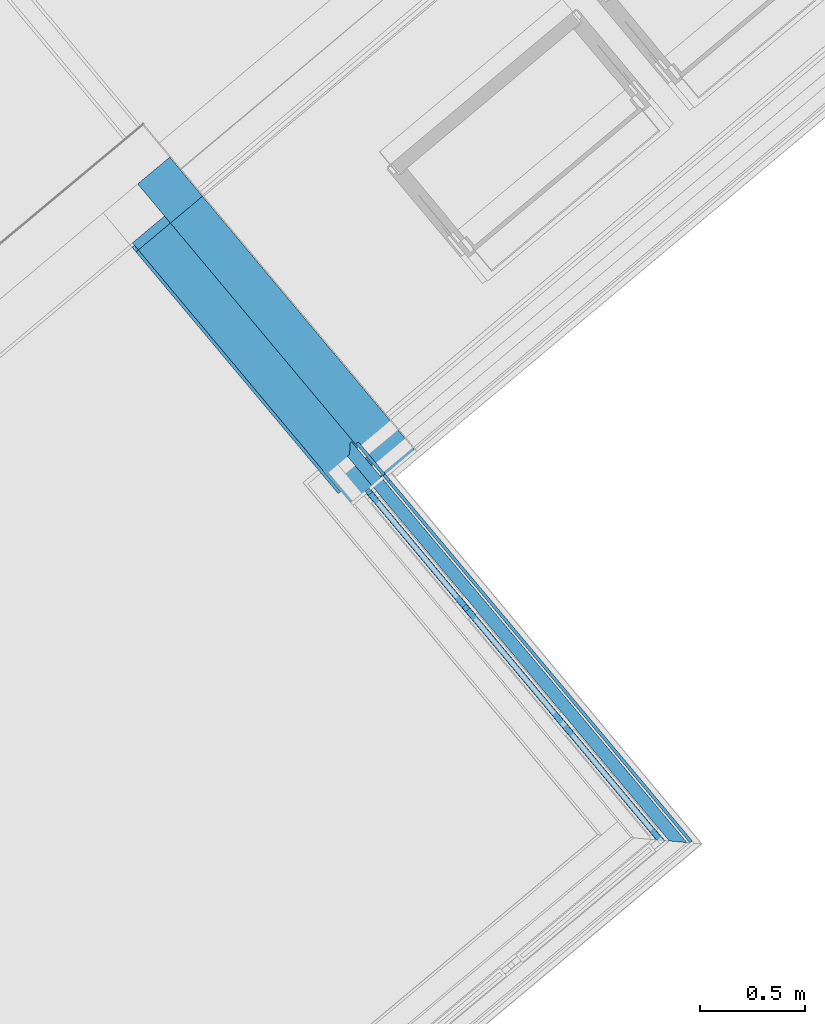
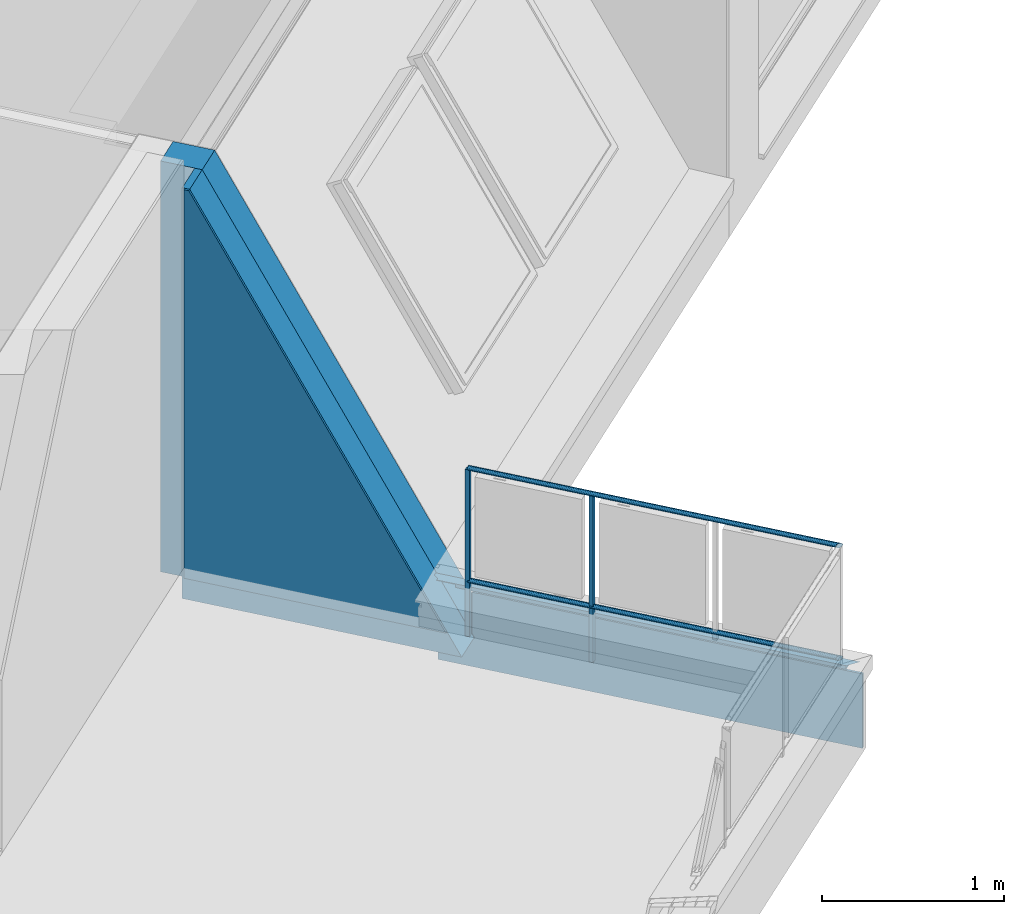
# One storey, part 21 of 58: 9 building element parts, 3 elements without a shape of their own.
"""IFC4 building model written with IfcOpenShell, lengths in metres."""

import ifcopenshell
import ifcopenshell.guid

model = None  # the IFC model being written
_history = None  # IfcOwnerHistory: only IFC2X3 demands one
_inside = {}  # id of a spatial element -> (the spatial element, [elements in it])
_under = {}  # id of a project, library or spatial element -> (it, [spatial elements below it])
_declared = {}  # id of a project -> (the project, [libraries it declares])
_typed = {}  # id of a type object -> (the type object, [elements of that type])
_made_of = {}  # id of a material, layer set ... -> (it, [elements and type objects made of it])


def new_model(schema):
    """Start an empty IFC model of exactly this schema.

    Asked for "IFC4X3", IfcOpenShell would pick the latest addendum, in which some entities
    have other attributes; the version numbers below select the first issue.
    IFC2X3 requires an IfcOwnerHistory on every rooted entity: one is made here for all.
    """
    global model, _history
    if schema == "IFC4X3":
        model = ifcopenshell.file(schema_version=(4, 3, 0, 0))
    else:
        model = ifcopenshell.file(schema=schema)
    _inside.clear()
    _under.clear()
    _declared.clear()
    _typed.clear()
    _made_of.clear()
    _history = None
    if model.schema == "IFC2X3":
        org = make("IfcOrganization", Name="unknown")
        user = make(
            "IfcPersonAndOrganization",
            ThePerson=make("IfcPerson", FamilyName="unknown"),
            TheOrganization=org,
        )
        app = make(
            "IfcApplication",
            ApplicationDeveloper=org,
            Version="unknown",
            ApplicationFullName="unknown",
            ApplicationIdentifier="unknown",
        )
        _history = make(
            "IfcOwnerHistory",
            OwningUser=user,
            OwningApplication=app,
            ChangeAction="ADDED",
            CreationDate=0,
        )
    return model


def make(cls, **values):
    """One entity of the class cls with the attributes given. An attribute that is None is left unset."""
    return model.create_entity(
        cls, **{name: value for name, value in values.items() if value is not None}
    )


def entity(cls, *values):
    """Any entity or typed value of the class cls, its attributes in the order of the schema. None: left unset."""
    e = model.create_entity(cls)
    for i, value in enumerate(values):
        if value is not None:
            e[i] = value
    return e


def rooted(cls, **values):
    """An entity with a GlobalId (a new one), such as an element, a storey or a relation."""
    return make(cls, GlobalId=ifcopenshell.guid.new(), OwnerHistory=_history, **values)


def si_unit(unit_type, name, prefix=None):
    """IfcSIUnit, for example si_unit("LENGTHUNIT", "METRE", prefix="MILLI")."""
    return make("IfcSIUnit", UnitType=unit_type, Prefix=prefix, Name=name)


def converted_unit(unit_type, name, factor, base, dimensions=None, offset=None):
    """IfcConversionBasedUnit, such as the inch: factor (a typed value) times the base unit."""
    return make(
        "IfcConversionBasedUnit"
        if offset is None
        else "IfcConversionBasedUnitWithOffset",
        ConversionOffset=offset,
        Dimensions=None
        if dimensions is None
        else entity("IfcDimensionalExponents", *dimensions),
        UnitType=unit_type,
        Name=name,
        ConversionFactor=make(
            "IfcMeasureWithUnit", ValueComponent=factor, UnitComponent=base
        ),
    )


def derived_unit(unit_type, elements):
    """IfcDerivedUnit: a product of units, each with its exponent."""
    return make(
        "IfcDerivedUnit",
        Elements=[
            make("IfcDerivedUnitElement", Unit=unit, Exponent=power)
            for unit, power in elements
        ],
        UnitType=unit_type,
    )


def assignment(units):
    """IfcUnitAssignment: the units of a project."""
    return None if units is None else make("IfcUnitAssignment", Units=units)


def point(xyz):
    """IfcCartesianPoint."""
    return None if xyz is None else make("IfcCartesianPoint", Coordinates=xyz)


def direction(xyz):
    """IfcDirection."""
    return None if xyz is None else make("IfcDirection", DirectionRatios=xyz)


def frame(location, z_axis=None, x_axis=None):
    """IfcAxis2Placement3D, a coordinate frame: its origin and axes. An axis left out is left unset."""
    return make(
        "IfcAxis2Placement3D",
        Location=point(location),
        Axis=direction(z_axis),
        RefDirection=direction(x_axis),
    )


def origin_with_axes():
    """The frame at (0, 0, 0) with the z axis (0, 0, 1) and the x axis (1, 0, 0) written out."""
    return frame((0.0, 0.0, 0.0), z_axis=(0.0, 0.0, 1.0), x_axis=(1.0, 0.0, 0.0))


def place(relative_to, where):
    """IfcLocalPlacement: puts the frame where relative to a parent placement (None: the world)."""
    return make(
        "IfcLocalPlacement", PlacementRelTo=relative_to, RelativePlacement=where
    )


def context(
    kind, dimensions, precision=None, world=None, true_north=None, identifier=None
):
    """IfcGeometricRepresentationContext, for example the 3D "Model" context."""
    return make(
        "IfcGeometricRepresentationContext",
        ContextIdentifier=identifier,
        ContextType=kind,
        CoordinateSpaceDimension=dimensions,
        Precision=precision,
        WorldCoordinateSystem=world,
        TrueNorth=true_north,
    )


def subcontext(parent, identifier, kind, view, scale=None):
    """IfcGeometricRepresentationSubContext, for example "Body" below "Model"."""
    return make(
        "IfcGeometricRepresentationSubContext",
        ContextIdentifier=identifier,
        ContextType=kind,
        ParentContext=parent,
        TargetScale=scale,
        TargetView=view,
    )


def project(units=None, contexts=None):
    """IfcProject with its units and contexts."""
    return rooted(
        "IfcProject",
        Name="project",
        RepresentationContexts=contexts,
        UnitsInContext=assignment(units),
    )


def spatial(cls, under=None, at=None, **own):
    """A site, building, storey or space (cls), placed at a placement, below another one or the project."""
    s = rooted(cls, ObjectPlacement=at, **own)
    if under is not None:
        _under.setdefault(under.id(), (under, []))[1].append(s)
    return s


def point_list(points):
    """IfcCartesianPointList2D or 3D."""
    cls = (
        "IfcCartesianPointList2D" if len(points[0]) == 2 else "IfcCartesianPointList3D"
    )
    return make(cls, CoordList=points)


def polygons(points, faces, closed=None, point_numbers=None):
    """IfcPolygonalFaceSet: a face is its outer loop, then its inner loops; points numbered from 1."""
    made = []
    for loops in faces:
        if len(loops) == 1:
            made.append(make("IfcIndexedPolygonalFace", CoordIndex=loops[0]))
        else:
            made.append(
                make(
                    "IfcIndexedPolygonalFaceWithVoids",
                    CoordIndex=loops[0],
                    InnerCoordIndices=loops[1:],
                )
            )
    return make(
        "IfcPolygonalFaceSet",
        Coordinates=point_list(points),
        Closed=closed,
        Faces=made,
        PnIndex=point_numbers,
    )


def shape(context_of_items, identifier, shape_type, items):
    """IfcShapeRepresentation: the items that make up one representation, for example the "Body"."""
    return make(
        "IfcShapeRepresentation",
        ContextOfItems=context_of_items,
        RepresentationIdentifier=identifier,
        RepresentationType=shape_type,
        Items=items,
    )


def material(Name=None, Category=None):
    """IfcMaterial."""
    return make("IfcMaterial", Name=Name, Category=Category)


def made_of(thing, what):
    """Note that an element or type object is made of a material, layer set ...; save() writes the relation."""
    if what is not None:
        _made_of.setdefault(what.id(), (what, []))[1].append(thing)
    return thing


def type_object(cls, material=None, **own):
    """A type object (cls), such as IfcWallType, which elements share."""
    return made_of(rooted(cls, **own), material)


def element(
    cls,
    number,
    at=None,
    inside=None,
    cuts=None,
    type_object=None,
    material=None,
    context=None,
    identifier="Body",
    shape_type=None,
    held_by="IfcProductDefinitionShape",
    body=None,
    shapes=None,
    **own,
):
    """One element of the class cls, such as IfcWall. Its Tag is "e" and its number.

    at: its placement. inside: the storey or other place that contains it. cuts: it is an
    opening in that element (IfcRelVoidsElement). A single representation is given by context,
    identifier, shape_type and body (its items); several are given by shapes. held_by: the class
    of the entity that holds the representations. save() writes the other relations.
    """
    e = rooted(cls, Tag="e%d" % number, ObjectPlacement=at, **own)
    if body is not None:
        shapes = [shape(context, identifier, shape_type, body)]
    if shapes is not None:
        e.Representation = make(held_by, Representations=shapes)
    if inside is not None:
        _inside.setdefault(inside.id(), (inside, []))[1].append(e)
    if cuts is not None:
        rooted(
            "IfcRelVoidsElement", RelatingBuildingElement=cuts, RelatedOpeningElement=e
        )
    if type_object is not None:
        _typed.setdefault(type_object.id(), (type_object, []))[1].append(e)
    return made_of(e, material)


def aggregate(whole, parts):
    """IfcRelAggregates: a whole, such as a stair, and the parts it consists of."""
    return rooted("IfcRelAggregates", RelatingObject=whole, RelatedObjects=parts)


def save(model, path):
    """Write the relations noted so far, then the file.

    IfcRelAggregates (storeys below a building ...), IfcRelContainedInSpatialStructure (elements
    in a storey), IfcRelDefinesByType, IfcRelAssociatesMaterial and IfcRelDeclares: one each for
    every whole, place, type object, material and project.
    """
    for whole, parts in _under.values():
        aggregate(whole, parts)
    for where, things in _inside.values():
        rooted(
            "IfcRelContainedInSpatialStructure",
            RelatedElements=things,
            RelatingStructure=where,
        )
    for kind, things in _typed.values():
        rooted("IfcRelDefinesByType", RelatedObjects=things, RelatingType=kind)
    for what, things in _made_of.values():
        rooted("IfcRelAssociatesMaterial", RelatedObjects=things, RelatingMaterial=what)
    for by, libraries in _declared.values():
        rooted("IfcRelDeclares", RelatingContext=by, RelatedDefinitions=libraries)
    model.write(path)


model = new_model("IFC4")

# Units and contexts
model_context = context("Model", 3, precision=1e-05, world=origin_with_axes(), true_north=direction((0.0, 1.0)))
body_context = subcontext(model_context, "Body", "Model", "MODEL_VIEW")
ifc_project = project(units=[si_unit("LENGTHUNIT", "METRE"), si_unit("AREAUNIT", "SQUARE_METRE"), si_unit("VOLUMEUNIT", "CUBIC_METRE"), converted_unit("PLANEANGLEUNIT", "DEGREE", entity("IfcPlaneAngleMeasure", 0.0174532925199), si_unit("PLANEANGLEUNIT", "RADIAN"), dimensions=[0, 0, 0, 0, 0, 0, 0]), converted_unit("TIMEUNIT", "Year", entity("IfcTimeMeasure", 31556926.0), si_unit("TIMEUNIT", "SECOND"), dimensions=[0, 0, 1, 0, 0, 0, 0]), si_unit("MASSUNIT", "GRAM", prefix="KILO"), si_unit("THERMODYNAMICTEMPERATUREUNIT", "DEGREE_CELSIUS"), si_unit("LUMINOUSINTENSITYUNIT", "LUMEN"), si_unit("ENERGYUNIT", "JOULE", prefix="MEGA"), derived_unit("THERMALCONDUCTANCEUNIT", [(si_unit("POWERUNIT", "WATT"), 1), (si_unit("LENGTHUNIT", "METRE"), -1), (si_unit("THERMODYNAMICTEMPERATUREUNIT", "KELVIN"), -1)]), derived_unit("SPECIFICHEATCAPACITYUNIT", [(si_unit("ENERGYUNIT", "JOULE"), 1), (si_unit("MASSUNIT", "GRAM", prefix="KILO"), -1), (si_unit("THERMODYNAMICTEMPERATUREUNIT", "KELVIN"), -1)]), derived_unit("MASSDENSITYUNIT", [(si_unit("MASSUNIT", "GRAM", prefix="KILO"), 1), (si_unit("VOLUMEUNIT", "CUBIC_METRE"), -1)])], contexts=[model_context])

# Site, building, storey
site_placement = place(None, frame((-0.00153261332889, -0.00661245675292, 0.0), z_axis=(0.0, 0.0, 1.0), x_axis=(1.0, 0.0, 0.0)))
site = spatial("IfcSite", under=ifc_project, at=site_placement, Name="Site", CompositionType="ELEMENT")
building_placement = place(site_placement, origin_with_axes())
building = spatial("IfcBuilding", under=site, at=building_placement, Name="Building", CompositionType="ELEMENT")
storey_placement = place(building_placement, frame((0.0, 0.0, 5.7), z_axis=(0.0, 0.0, 1.0), x_axis=(1.0, 0.0, 0.0)))
storey = spatial("IfcBuildingStorey", under=building, at=storey_placement, Name="DG1", CompositionType="ELEMENT", Elevation=5.7)

# Wall, building element parts
wall_type_1 = type_object("IfcWallType", Name="AW EG 420", PredefinedType="NOTDEFINED")
wall_1_placement = place(storey_placement, frame((4.49965389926, 14.9497476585, 0.0), z_axis=(0.0, 0.0, 1.0), x_axis=(0.641751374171, -0.766912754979, 0.0)))
wall_1 = element("IfcWall", 1, at=wall_1_placement, inside=storey, type_object=wall_type_1, Name="Wand-002", PredefinedType="NOTDEFINED")
ifc_material_1 = material(Name="Stahlbeton Wand")
building_element_part_1_placement = place(wall_1_placement, origin_with_axes())
building_element_part_1 = element("IfcBuildingElementPart", 2, at=building_element_part_1_placement, material=ifc_material_1, Name="Stahlbeton Wand", PredefinedType="NOTDEFINED", context=body_context, shape_type="Tessellation", body=[
    polygons([(-0.214988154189, 0.215, 0.0), (-0.214988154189, 0.215, 2.76), (-0.214977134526, 0.415, 2.76), (-0.214977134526, 0.415, 2.57275084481), (-0.214988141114, 0.215237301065, 2.57276350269), (-0.214988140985, 0.215239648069, 2.36264000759), (-0.214977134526, 0.415, 2.36267415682), (-0.214977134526, 0.415, 0.0), (1.62250990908, 0.215, 0.0), (0.0290231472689, 0.215, 2.76), (0.0290539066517, 0.415, 2.76), (1.6225414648, 0.415, 0.0), (1.38005355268, 0.415, 0.0), (-0.138988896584, 0.415, 2.63105866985), (-0.13901863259, 0.215225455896, 2.63105695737), (1.38002279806, 0.215031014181, 0.0), (1.14908269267, 0.215065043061, 0.0), (1.14911344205, 0.415, 0.0)], [[[1, 2, 3, 4, 5, 6, 7, 8]], [[2, 1, 9, 10]], [[3, 2, 10, 11]], [[4, 3, 11, 12, 13, 14]], [[15, 5, 4, 14]], [[5, 15, 16, 17, 6]], [[6, 17, 18, 7]], [[18, 8, 7]], [[1, 8, 18, 17, 16, 13, 12, 9]], [[11, 10, 9, 12]], [[16, 15, 14, 13]]], closed=True),
])
ifc_material_2 = material(Name="EPS 1")
building_element_part_2_placement = place(wall_1_placement, origin_with_axes())
building_element_part_2 = element("IfcBuildingElementPart", 3, at=building_element_part_2_placement, material=ifc_material_2, Name="EPS 1", PredefinedType="NOTDEFINED", context=body_context, shape_type="Tessellation", body=[
    polygons([(-0.0149991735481, 0.015, 0.0), (-0.0149881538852, 0.215, 0.0), (1.62250990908, 0.215, 0.0), (1.6224791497, 0.015, 0.0), (-0.0149991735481, 0.015, 2.76), (-0.0149881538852, 0.215, 2.76), (0.0290231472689, 0.215, 2.76), (0.0289923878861, 0.015, 2.76)], [[[1, 2, 3, 4]], [[5, 6, 2, 1]], [[2, 6, 7, 3]], [[3, 7, 8, 4]], [[5, 1, 4, 8]], [[6, 5, 8, 7]]], closed=True),
])
ifc_material_3 = material(Name="Zementputz")
building_element_part_3_placement = place(wall_1_placement, origin_with_axes())
building_element_part_3 = element("IfcBuildingElementPart", 4, at=building_element_part_3_placement, material=ifc_material_3, Name="Zementputz", PredefinedType="NOTDEFINED", context=body_context, shape_type="Tessellation", body=[
    polygons([(0.0, 0.0, 2.76), (0.0, 0.0, 0.15), (1.53587430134, 0.0, 0.15), (0.0289900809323, 0.0, 2.76), (8.26474714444e-07, 0.015, 2.76), (8.26474714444e-07, 0.014999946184, 0.15), (1.53587660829, 0.0149999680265, 0.15), (0.0289923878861, 0.015, 2.76)], [[[1, 2, 3, 4]], [[5, 6, 2, 1]], [[2, 6, 7, 3]], [[3, 7, 8, 4]], [[5, 1, 4, 8]], [[7, 6, 5, 8]]], closed=True),
])
aggregate(wall_1, [building_element_part_1, building_element_part_2, building_element_part_3])

wall_type_2 = type_object("IfcWallType", Name="Bauteil - Attika Balkon 356 x 610", PredefinedType="NOTDEFINED")
wall_2_placement = place(storey_placement, frame((6.88564428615, 12.1266520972, -0.2), z_axis=(0.0, 0.0, 1.0), x_axis=(-0.641751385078, 0.766912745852, 0.0)))
wall_2 = element("IfcWall", 5, at=wall_2_placement, inside=storey, type_object=wall_type_2, Name="Wand-003", PredefinedType="NOTDEFINED")
ifc_material_4 = material(Name="Vollholz")
building_element_part_4_placement = place(wall_2_placement, origin_with_axes())
building_element_part_4 = element("IfcBuildingElementPart", 6, at=building_element_part_4_placement, material=ifc_material_4, Name="Vollholz", PredefinedType="NOTDEFINED", context=body_context, shape_type="Tessellation", body=[
    polygons([(2.26893600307, -0.130124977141, 0.581066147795), (2.26893600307, -0.190011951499, 0.581066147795), (2.20921896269, -0.1900119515, 0.581066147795), (2.20921896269, -0.130124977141, 0.581066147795), (2.26892533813, -0.130124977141, 0.584015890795), (2.26892354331, -0.14434046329, 0.58451230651), (2.26892354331, -0.189993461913, 0.58451230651), (2.30855126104, -0.189986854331, 0.585743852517), (2.30853999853, -0.189984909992, 0.586106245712), (-0.190096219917, -0.189984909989, 0.586106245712), (-0.130236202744, -0.189996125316, 0.584015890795), (-0.130236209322, -0.190007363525, 0.581921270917), (-0.130236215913, -0.190018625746, 0.57982217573), (-0.130236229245, -0.190041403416, 0.575576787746), (-0.13023627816, -0.190124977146, 0.560000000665), (2.15803567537, -0.190124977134, 0.560000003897), (2.15803567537, -0.19004140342, 0.575576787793), (2.15803567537, -0.190030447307, 0.577618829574), (2.15803567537, -0.190021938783, 0.579204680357), (2.15803567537, -0.190018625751, 0.57982217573), (2.15803567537, -0.190011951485, 0.581066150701), (2.15803567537, -0.130124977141, 0.581066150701), (2.15803567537, -0.130124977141, 0.575576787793), (2.15803567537, -0.130124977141, 0.560000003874), (-0.130201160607, -0.130124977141, 0.560000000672), (-0.130201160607, -0.130124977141, 0.575576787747), (-0.130201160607, -0.130124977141, 0.57982217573), (-0.130201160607, -0.130124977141, 0.581921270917), (-0.130201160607, -0.130124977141, 0.584015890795), (2.15803567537, -0.130124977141, 0.57982217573), (2.15803567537, -0.130124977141, 0.579204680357), (2.15803567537, -0.130124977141, 0.577618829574), (2.30855126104, -0.179607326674, 0.585743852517)], [[[1, 2, 3, 4]], [[2, 1, 5, 6, 7]], [[2, 7, 8, 9, 10, 11, 12, 13, 14, 15, 16, 17, 18, 19, 20, 21, 3]], [[22, 4, 3, 21]], [[23, 24, 25, 26, 27, 28, 29, 5, 1, 4, 22, 30, 31, 32]], [[6, 5, 29, 10, 9, 33]], [[7, 6, 33, 8]], [[8, 33, 9]], [[29, 11, 10]], [[29, 28, 12, 11]], [[28, 27, 13, 12]], [[27, 26, 14, 13]], [[26, 25, 15, 14]], [[25, 24, 16, 15]], [[24, 23, 17, 16]], [[23, 32, 18, 17]], [[32, 31, 19, 18]], [[31, 30, 20, 19]], [[30, 22, 21, 20]]], closed=True),
])
building_element_part_5_placement = place(wall_2_placement, origin_with_axes())
building_element_part_5 = element("IfcBuildingElementPart", 7, at=building_element_part_5_placement, material=ifc_material_3, Name="Zementputz", PredefinedType="NOTDEFINED", context=body_context, shape_type="Tessellation", body=[
    polygons([(2.05176382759, -0.214999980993, 0.498951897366), (2.0507455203, -0.214999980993, 0.499843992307), (2.05073521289, -0.214999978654, 0.499999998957), (-0.200125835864, -0.214999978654, 0.500000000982), (-0.200125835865, -0.214999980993, 0.498915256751), (-0.200125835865, -0.214999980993, 0.496604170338), (-0.200125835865, -0.214999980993, 0.334999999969), (-0.200125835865, -0.214999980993, 0.2), (-0.200125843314, -0.214999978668, 0.0), (2.28816065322, -0.214999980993, 0.0), (2.28816065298, -0.214999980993, 0.2), (2.08816069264, -0.214999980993, 0.2), (2.08816069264, -0.214999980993, 0.334999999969), (2.08816069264, -0.214999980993, 0.496604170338), (2.08816069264, -0.214999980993, 0.498915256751), (2.0881606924, -0.214999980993, 0.498951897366), (2.07316067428, -0.214999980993, 0.498951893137), (2.05176382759, -0.199999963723, 0.498951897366), (2.0507455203, -0.199999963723, 0.499843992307), (2.05073521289, -0.199999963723, 0.499999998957), (-0.200117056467, -0.199999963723, 0.500000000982), (-0.200117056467, -0.199999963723, 0.498915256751), (-0.200117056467, -0.199999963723, 0.496604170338), (-0.200117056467, -0.199999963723, 0.334999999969), (-0.200117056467, -0.19999996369, 0.2), (-0.200117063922, -0.199999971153, 0.0), (2.28816065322, -0.199999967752, 0.0), (2.28816065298, -0.199999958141, 0.2), (2.08816069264, -0.199999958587, 0.2), (2.08816069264, -0.199999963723, 0.334999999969), (2.08816069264, -0.199999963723, 0.496604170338), (2.08816069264, -0.199999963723, 0.498915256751), (2.0881606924, -0.199999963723, 0.498951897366), (2.07316067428, -0.199999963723, 0.498951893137)], [[[1, 2, 3, 4, 5, 6, 7, 8, 9, 10, 11, 12, 13, 14, 15, 16, 17]], [[2, 1, 18, 19]], [[20, 3, 2, 19]], [[3, 20, 21, 4]], [[5, 4, 21, 22]], [[5, 22, 23, 6]], [[6, 23, 24, 7]], [[7, 24, 25, 8]], [[8, 25, 26, 9]], [[9, 26, 27, 10]], [[28, 11, 10, 27]], [[12, 11, 28, 29]], [[30, 13, 12, 29]], [[31, 14, 13, 30]], [[32, 15, 14, 31]], [[33, 16, 15, 32]], [[34, 17, 16, 33]], [[18, 1, 17, 34]], [[19, 18, 34, 33, 32, 31, 30, 29, 25, 24, 23, 22, 21, 20]], [[29, 28, 27, 26, 25]]], closed=True),
])
aggregate(wall_2, [building_element_part_4, building_element_part_5])

# Railing, building element parts
railing_type = type_object("IfcRailingType", Name="Geländerart", PredefinedType="NOTDEFINED")
railing_placement = place(storey_placement, frame((-1.26757951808, 10.1438545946, 0.38), z_axis=(0.0, 0.0, 1.0), x_axis=(1.0, 0.0, 0.0)))
railing = element("IfcRailing", 8, at=railing_placement, inside=storey, type_object=railing_type, Name="Geländer - 001", PredefinedType="NOTDEFINED")
ifc_material_5 = material(Name="Aluminium")
building_element_part_6_placement = place(railing_placement, origin_with_axes())
building_element_part_6 = element("IfcBuildingElementPart", 9, at=building_element_part_6_placement, material=ifc_material_5, Name="Aluminium", PredefinedType="NOTDEFINED", context=body_context, shape_type="Tessellation", body=[
    polygons([(6.90052373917, 3.6548543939, -0.3), (6.88135209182, 3.63880920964, -0.3), (6.88135209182, 3.63880920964, 0.82), (6.90052373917, 3.6548543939, 0.82), (6.91656892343, 3.63568274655, -0.3), (6.89739727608, 3.61963756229, -0.3), (6.89739727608, 3.61963756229, 0.82), (6.91656892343, 3.63568274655, 0.82)], [[[1, 2, 3, 4]], [[1, 5, 6, 2]], [[2, 6, 7, 3]], [[4, 3, 7, 8]], [[5, 1, 4, 8]], [[6, 5, 8, 7]]], closed=True),
])
building_element_part_7_placement = place(railing_placement, origin_with_axes())
building_element_part_7 = element("IfcBuildingElementPart", 10, at=building_element_part_7_placement, material=ifc_material_5, Name="Aluminium", PredefinedType="NOTDEFINED", context=body_context, shape_type="Tessellation", body=[
    polygons([(8.27374117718, 1.97121274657, 0.825), (8.27406230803, 1.97118410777, 0.827604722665), (6.88763227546, 3.62776512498, 0.827604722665), (6.88745751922, 3.62761886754, 0.825), (8.27406230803, 1.97118410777, 0.822395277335), (8.27501594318, 1.97109906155, 0.81986969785), (8.27657310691, 1.970960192, 0.8175), (8.27868648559, 1.9707717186, 0.815358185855), (8.28129186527, 1.97053936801, 0.813509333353), (8.28431008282, 1.9702702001, 0.812009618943), (8.28764943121, 1.96997239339, 0.810904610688), (8.29120844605, 1.96965499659, 0.810227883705), (8.29487898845, 1.96932765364, 0.81), (8.29854953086, 1.96900031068, 0.810227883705), (8.30210854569, 1.96868291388, 0.810904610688), (8.30544789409, 1.96838510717, 0.812009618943), (8.30846611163, 1.96811593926, 0.813509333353), (8.31107149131, 1.96788358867, 0.815358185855), (8.31318486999, 1.96769511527, 0.8175), (8.31474203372, 1.96755624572, 0.81986969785), (8.31569566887, 1.9674711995, 0.822395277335), (8.31601679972, 1.96744256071, 0.825), (8.31569566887, 1.9674711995, 0.827604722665), (8.31474203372, 1.96755624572, 0.83013030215), (8.31318486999, 1.96769511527, 0.8325), (8.31107149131, 1.96788358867, 0.834641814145), (8.30846611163, 1.96811593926, 0.836490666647), (8.30544789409, 1.96838510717, 0.837990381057), (8.30210854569, 1.96868291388, 0.839095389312), (8.29854953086, 1.96900031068, 0.839772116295), (8.29487898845, 1.96932765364, 0.84), (8.29120844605, 1.96965499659, 0.839772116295), (8.28764943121, 1.96997239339, 0.839095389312), (8.28431008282, 1.9702702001, 0.837990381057), (8.28129186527, 1.97053936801, 0.836490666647), (8.27868648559, 1.9707717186, 0.834641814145), (8.27657310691, 1.970960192, 0.8325), (8.27501594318, 1.97109906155, 0.83013030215), (6.8881512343, 3.62819945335, 0.83013030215), (6.88899862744, 3.62890865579, 0.8325), (6.89014870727, 3.62987118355, 0.834641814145), (6.8915665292, 3.63105779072, 0.836490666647), (6.89320901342, 3.63243242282, 0.837990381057), (6.89502625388, 3.63395331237, 0.839095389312), (6.89696303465, 3.63557424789, 0.839772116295), (6.89896050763, 3.6372459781, 0.84), (6.9009579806, 3.6389177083, 0.839772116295), (6.90289476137, 3.64053864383, 0.839095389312), (6.90471200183, 3.64205953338, 0.837990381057), (6.90635448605, 3.64343416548, 0.836490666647), (6.90777230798, 3.64462077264, 0.834641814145), (6.90892238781, 3.6455833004, 0.8325), (6.90976978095, 3.64629250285, 0.83013030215), (6.91028873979, 3.64672683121, 0.827604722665), (6.91046349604, 3.64687308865, 0.825), (6.91028873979, 3.64672683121, 0.822395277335), (6.90976978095, 3.64629250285, 0.81986969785), (6.90892238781, 3.6455833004, 0.8175), (6.90777230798, 3.64462077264, 0.815358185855), (6.90635448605, 3.64343416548, 0.813509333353), (6.90471200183, 3.64205953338, 0.812009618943), (6.90289476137, 3.64053864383, 0.810904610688), (6.9009579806, 3.6389177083, 0.810227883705), (6.89896050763, 3.6372459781, 0.81), (6.89696303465, 3.63557424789, 0.810227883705), (6.89502625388, 3.63395331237, 0.810904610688), (6.89320901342, 3.63243242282, 0.812009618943), (6.8915665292, 3.63105779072, 0.813509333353), (6.89014870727, 3.62987118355, 0.815358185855), (6.88899862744, 3.62890865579, 0.8175), (6.8881512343, 3.62819945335, 0.81986969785), (6.88763227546, 3.62776512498, 0.822395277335)], [[[1, 2, 3, 4]], [[1, 5, 6, 7, 8, 9, 10, 11, 12, 13, 14, 15, 16, 17, 18, 19, 20, 21, 22, 23, 24, 25, 26, 27, 28, 29, 30, 31, 32, 33, 34, 35, 36, 37, 38, 2]], [[2, 38, 39, 3]], [[4, 3, 39, 40, 41, 42, 43, 44, 45, 46, 47, 48, 49, 50, 51, 52, 53, 54, 55, 56, 57, 58, 59, 60, 61, 62, 63, 64, 65, 66, 67, 68, 69, 70, 71, 72]], [[5, 1, 4, 72]], [[6, 5, 72, 71]], [[7, 6, 71, 70]], [[8, 7, 70, 69]], [[9, 8, 69, 68]], [[10, 9, 68, 67]], [[11, 10, 67, 66]], [[12, 11, 66, 65]], [[13, 12, 65, 64]], [[14, 13, 64, 63]], [[15, 14, 63, 62]], [[16, 15, 62, 61]], [[17, 16, 61, 60]], [[18, 17, 60, 59]], [[19, 18, 59, 58]], [[20, 19, 58, 57]], [[21, 20, 57, 56]], [[22, 21, 56, 55]], [[23, 22, 55, 54]], [[24, 23, 54, 53]], [[25, 24, 53, 52]], [[26, 25, 52, 51]], [[27, 26, 51, 50]], [[28, 27, 50, 49]], [[29, 28, 49, 48]], [[30, 29, 48, 47]], [[31, 30, 47, 46]], [[32, 31, 46, 45]], [[33, 32, 45, 44]], [[34, 33, 44, 43]], [[35, 34, 43, 42]], [[36, 35, 42, 41]], [[37, 36, 41, 40]], [[38, 37, 40, 39]]], closed=True),
])
building_element_part_8_placement = place(railing_placement, origin_with_axes())
building_element_part_8 = element("IfcBuildingElementPart", 11, at=building_element_part_8_placement, material=ifc_material_5, Name="Aluminium", PredefinedType="NOTDEFINED", context=body_context, shape_type="Tessellation", body=[
    polygons([(8.27374117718, 1.97121274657, 0.07), (8.27406230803, 1.97118410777, 0.072604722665), (6.88763227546, 3.62776512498, 0.072604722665), (6.88745751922, 3.62761886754, 0.07), (8.27406230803, 1.97118410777, 0.067395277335), (8.27501594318, 1.97109906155, 0.0648696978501), (8.27657310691, 1.970960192, 0.0625), (8.27868648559, 1.9707717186, 0.0603581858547), (8.28129186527, 1.97053936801, 0.0585093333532), (8.28431008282, 1.9702702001, 0.0570096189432), (8.28764943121, 1.96997239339, 0.0559046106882), (8.29120844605, 1.96965499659, 0.0552278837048), (8.29487898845, 1.96932765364, 0.055), (8.29854953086, 1.96900031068, 0.0552278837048), (8.30210854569, 1.96868291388, 0.0559046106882), (8.30544789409, 1.96838510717, 0.0570096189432), (8.30846611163, 1.96811593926, 0.0585093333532), (8.31107149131, 1.96788358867, 0.0603581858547), (8.31318486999, 1.96769511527, 0.0625), (8.31474203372, 1.96755624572, 0.0648696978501), (8.31569566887, 1.9674711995, 0.067395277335), (8.31601679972, 1.96744256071, 0.07), (8.31569566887, 1.9674711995, 0.072604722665), (8.31474203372, 1.96755624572, 0.0751303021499), (8.31318486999, 1.96769511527, 0.0775), (8.31107149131, 1.96788358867, 0.0796418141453), (8.30846611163, 1.96811593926, 0.0814906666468), (8.30544789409, 1.96838510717, 0.0829903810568), (8.30210854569, 1.96868291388, 0.0840953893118), (8.29854953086, 1.96900031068, 0.0847721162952), (8.29487898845, 1.96932765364, 0.085), (8.29120844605, 1.96965499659, 0.0847721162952), (8.28764943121, 1.96997239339, 0.0840953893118), (8.28431008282, 1.9702702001, 0.0829903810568), (8.28129186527, 1.97053936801, 0.0814906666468), (8.27868648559, 1.9707717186, 0.0796418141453), (8.27657310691, 1.970960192, 0.0775), (8.27501594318, 1.97109906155, 0.0751303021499), (6.8881512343, 3.62819945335, 0.0751303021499), (6.88899862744, 3.62890865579, 0.0775), (6.89014870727, 3.62987118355, 0.0796418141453), (6.8915665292, 3.63105779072, 0.0814906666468), (6.89320901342, 3.63243242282, 0.0829903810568), (6.89502625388, 3.63395331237, 0.0840953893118), (6.89696303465, 3.63557424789, 0.0847721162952), (6.89896050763, 3.6372459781, 0.085), (6.9009579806, 3.6389177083, 0.0847721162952), (6.90289476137, 3.64053864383, 0.0840953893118), (6.90471200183, 3.64205953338, 0.0829903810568), (6.90635448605, 3.64343416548, 0.0814906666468), (6.90777230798, 3.64462077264, 0.0796418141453), (6.90892238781, 3.6455833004, 0.0775), (6.90976978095, 3.64629250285, 0.0751303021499), (6.91028873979, 3.64672683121, 0.072604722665), (6.91046349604, 3.64687308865, 0.07), (6.91028873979, 3.64672683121, 0.067395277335), (6.90976978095, 3.64629250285, 0.0648696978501), (6.90892238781, 3.6455833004, 0.0625), (6.90777230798, 3.64462077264, 0.0603581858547), (6.90635448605, 3.64343416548, 0.0585093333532), (6.90471200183, 3.64205953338, 0.0570096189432), (6.90289476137, 3.64053864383, 0.0559046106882), (6.9009579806, 3.6389177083, 0.0552278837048), (6.89896050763, 3.6372459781, 0.055), (6.89696303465, 3.63557424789, 0.0552278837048), (6.89502625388, 3.63395331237, 0.0559046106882), (6.89320901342, 3.63243242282, 0.0570096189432), (6.8915665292, 3.63105779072, 0.0585093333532), (6.89014870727, 3.62987118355, 0.0603581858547), (6.88899862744, 3.62890865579, 0.0625), (6.8881512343, 3.62819945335, 0.0648696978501), (6.88763227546, 3.62776512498, 0.067395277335)], [[[1, 2, 3, 4]], [[1, 5, 6, 7, 8, 9, 10, 11, 12, 13, 14, 15, 16, 17, 18, 19, 20, 21, 22, 23, 24, 25, 26, 27, 28, 29, 30, 31, 32, 33, 34, 35, 36, 37, 38, 2]], [[2, 38, 39, 3]], [[4, 3, 39, 40, 41, 42, 43, 44, 45, 46, 47, 48, 49, 50, 51, 52, 53, 54, 55, 56, 57, 58, 59, 60, 61, 62, 63, 64, 65, 66, 67, 68, 69, 70, 71, 72]], [[5, 1, 4, 72]], [[6, 5, 72, 71]], [[7, 6, 71, 70]], [[8, 7, 70, 69]], [[9, 8, 69, 68]], [[10, 9, 68, 67]], [[11, 10, 67, 66]], [[12, 11, 66, 65]], [[13, 12, 65, 64]], [[14, 13, 64, 63]], [[15, 14, 63, 62]], [[16, 15, 62, 61]], [[17, 16, 61, 60]], [[18, 17, 60, 59]], [[19, 18, 59, 58]], [[20, 19, 58, 57]], [[21, 20, 57, 56]], [[22, 21, 56, 55]], [[23, 22, 55, 54]], [[24, 23, 54, 53]], [[25, 24, 53, 52]], [[26, 25, 52, 51]], [[27, 26, 51, 50]], [[28, 27, 50, 49]], [[29, 28, 49, 48]], [[30, 29, 48, 47]], [[31, 30, 47, 46]], [[32, 31, 46, 45]], [[33, 32, 45, 44]], [[34, 33, 44, 43]], [[35, 34, 43, 42]], [[36, 35, 42, 41]], [[37, 36, 41, 40]], [[38, 37, 40, 39]]], closed=True),
])
building_element_part_9_placement = place(railing_placement, origin_with_axes())
building_element_part_9 = element("IfcBuildingElementPart", 12, at=building_element_part_9_placement, material=ifc_material_5, Name="Aluminium", PredefinedType="NOTDEFINED", context=body_context, shape_type="Tessellation", body=[
    polygons([(7.36582989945, 3.09888161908, -0.3), (7.3466582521, 3.08283643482, -0.3), (7.3466582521, 3.08283643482, 0.82), (7.36582989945, 3.09888161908, 0.82), (7.38187508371, 3.07970997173, -0.3), (7.36270343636, 3.06366478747, -0.3), (7.36270343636, 3.06366478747, 0.82), (7.38187508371, 3.07970997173, 0.82)], [[[1, 2, 3, 4]], [[1, 5, 6, 2]], [[2, 6, 7, 3]], [[4, 3, 7, 8]], [[5, 1, 4, 8]], [[6, 5, 8, 7]]], closed=True),
])
aggregate(railing, [building_element_part_6, building_element_part_7, building_element_part_8, building_element_part_9])

save(model, "model.ifc")
